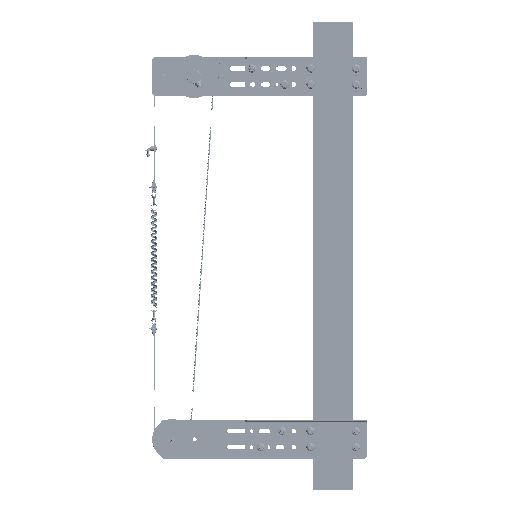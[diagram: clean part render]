
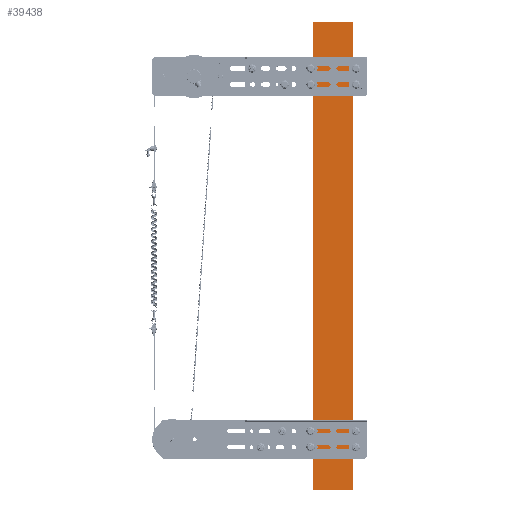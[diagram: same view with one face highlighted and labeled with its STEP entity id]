
A CAD part, top view. The second image highlights one B-rep face of the part: STEP entity #39438.
In plain terms, the highlighted planar face has unit normal (0, 0, 1).
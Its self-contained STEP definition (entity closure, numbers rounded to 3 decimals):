
#3158 = LINE ( 'NONE', #99941, #122184 ) ;
#12035 = VECTOR ( 'NONE', #30315, 1000. ) ;
#14120 = ORIENTED_EDGE ( 'NONE', *, *, #113162, .F. ) ;
#20964 = ORIENTED_EDGE ( 'NONE', *, *, #94176, .F. ) ;
#27117 = CARTESIAN_POINT ( 'NONE',  ( -535.798, -1511.776, 367.687 ) ) ;
#29017 = DIRECTION ( 'NONE',  ( 0., -1., 0. ) ) ;
#30315 = DIRECTION ( 'NONE',  ( 0., -1., 0. ) ) ;
#32294 = DIRECTION ( 'NONE',  ( 1., 0., 0. ) ) ;
#39438 = ADVANCED_FACE ( 'NONE', ( #130035 ), #75263, .F. ) ;
#41836 = CARTESIAN_POINT ( 'NONE',  ( -658.798, -51.776, 367.687 ) ) ;
#58446 = VECTOR ( 'NONE', #166348, 1000. ) ;
#75263 = PLANE ( 'NONE',  #139450 ) ;
#77907 = VERTEX_POINT ( 'NONE', #145211 ) ;
#85142 = CARTESIAN_POINT ( 'NONE',  ( -535.798, -51.776, 367.687 ) ) ;
#90175 = CARTESIAN_POINT ( 'NONE',  ( -658.798, -51.776, 367.687 ) ) ;
#90737 = DIRECTION ( 'NONE',  ( 0., 0., -1. ) ) ;
#93144 = EDGE_CURVE ( 'NONE', #77907, #122787, #3158, .T. ) ;
#94176 = EDGE_CURVE ( 'NONE', #158096, #122787, #172657, .T. ) ;
#99941 = CARTESIAN_POINT ( 'NONE',  ( -658.798, -1511.776, 367.687 ) ) ;
#106724 = VECTOR ( 'NONE', #29017, 1000. ) ;
#109149 = CARTESIAN_POINT ( 'NONE',  ( -535.798, -51.776, 367.687 ) ) ;
#112052 = LINE ( 'NONE', #41836, #106724 ) ;
#113162 = EDGE_CURVE ( 'NONE', #166117, #158096, #147302, .T. ) ;
#113364 = ORIENTED_EDGE ( 'NONE', *, *, #93144, .T. ) ;
#122184 = VECTOR ( 'NONE', #32294, 1000. ) ;
#122787 = VERTEX_POINT ( 'NONE', #27117 ) ;
#124271 = EDGE_CURVE ( 'NONE', #166117, #77907, #112052, .T. ) ;
#130035 = FACE_OUTER_BOUND ( 'NONE', #135206, .T. ) ;
#132714 = DIRECTION ( 'NONE',  ( -1., 0., 0. ) ) ;
#135206 = EDGE_LOOP ( 'NONE', ( #113364, #20964, #14120, #167705 ) ) ;
#139450 = AXIS2_PLACEMENT_3D ( 'NONE', #158312, #90737, #132714 ) ;
#145211 = CARTESIAN_POINT ( 'NONE',  ( -658.798, -1511.776, 367.687 ) ) ;
#147302 = LINE ( 'NONE', #169049, #58446 ) ;
#158096 = VERTEX_POINT ( 'NONE', #109149 ) ;
#158312 = CARTESIAN_POINT ( 'NONE',  ( -658.798, -51.776, 367.687 ) ) ;
#166117 = VERTEX_POINT ( 'NONE', #90175 ) ;
#166348 = DIRECTION ( 'NONE',  ( 1., 0., 0. ) ) ;
#167705 = ORIENTED_EDGE ( 'NONE', *, *, #124271, .T. ) ;
#169049 = CARTESIAN_POINT ( 'NONE',  ( -658.798, -51.776, 367.687 ) ) ;
#172657 = LINE ( 'NONE', #85142, #12035 ) ;
